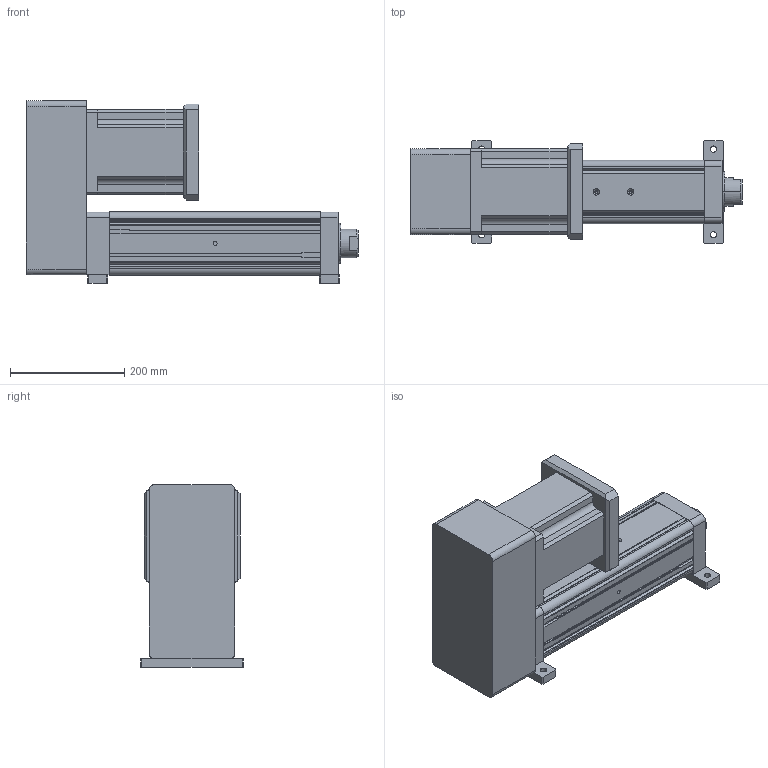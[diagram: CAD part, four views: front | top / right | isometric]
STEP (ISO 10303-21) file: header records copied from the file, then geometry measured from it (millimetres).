
FILE_DESCRIPTION (( 'STEP AP203' ), '1' );
FILE_NAME ('YRJ110-L200-H2K2.STEP', '2020-01-04T06:10:59', ( 'User' ), ( 'China' ), 'SwSTEP 2.0', 'SolidWorks 2016', '' );
FILE_SCHEMA (( 'CONFIG_CONTROL_DESIGN' ));
Length unit declared in the file: millimetre
Products named in the file (7): 142熬厒儂; YRJ110-L200-H2K2; H2-110-1; 095-100俴最倰第; H2-110-2; 萇儂碟-110; K2-110
Assembly tree (6 placements, depth 2):
  YRJ110-L200-H2K2
    095-100俴最倰第
    萇儂碟-110
    142熬厒儂
    H2-110-1
    H2-110-2
    K2-110
Bounding box: 581 x 180 x 320 mm (x, y, z)
Volume: 11491659.3 mm3; surface area: 832473.5 mm2
Topology: 6 solids, 6 shells, 320 faces, 882 edges, 569 vertices
Faces by surface type: plane 183, cylinder 110, cone 27
Entity records: 11146 total; most frequent: CARTESIAN_POINT 2104, DIRECTION 1737, ORIENTED_EDGE 1732, EDGE_CURVE 866, LINE 609, VECTOR 609, VERTEX_POINT 569, AXIS2_PLACEMENT_3D 564
